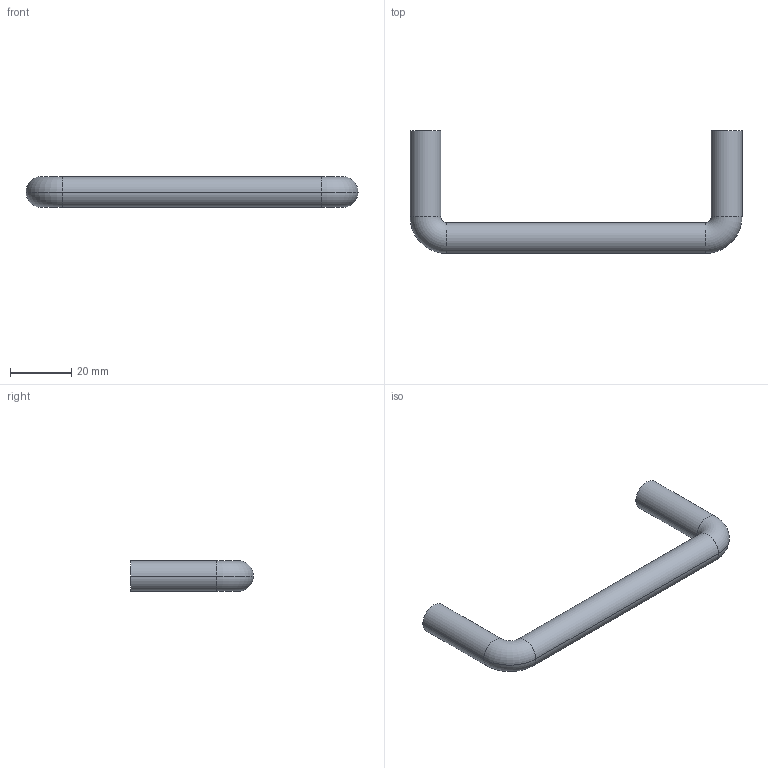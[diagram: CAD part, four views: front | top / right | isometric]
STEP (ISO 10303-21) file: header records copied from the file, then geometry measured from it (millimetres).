
FILE_DESCRIPTION( ( '' ), '1' );
FILE_NAME( 'C:/Documents and Settings/Sachin/Desktop/Sheet 10_1/stp/9070102.stp', '2013-10-22T08:24:47', ( '' ), ( '' ), ' ', ' ', ' ' );
FILE_SCHEMA( ( 'CONFIG_CONTROL_DESIGN' ) );
Length unit declared in the file: millimetre
Products named in the file (1): 1
Bounding box: 108 x 40 x 10 mm (x, y, z)
Volume: 12471.4 mm3; surface area: 5497.5 mm2
Topology: 1 solids, 1 shells, 18 faces, 34 edges, 20 vertices
Faces by surface type: cylinder 10, torus 4, plane 4
Entity records: 502 total; most frequent: DIRECTION 96, CARTESIAN_POINT 73, ORIENTED_EDGE 68, AXIS2_PLACEMENT_3D 43, EDGE_CURVE 34, CIRCLE 24, EDGE_LOOP 20, VERTEX_POINT 20
